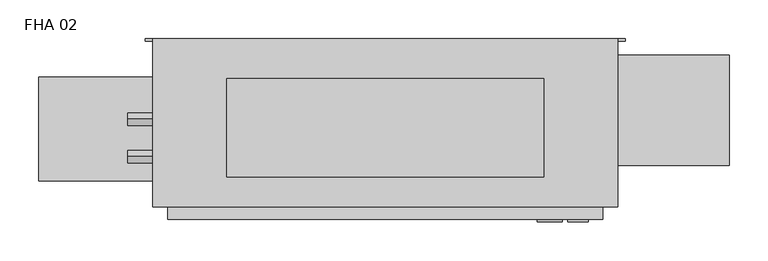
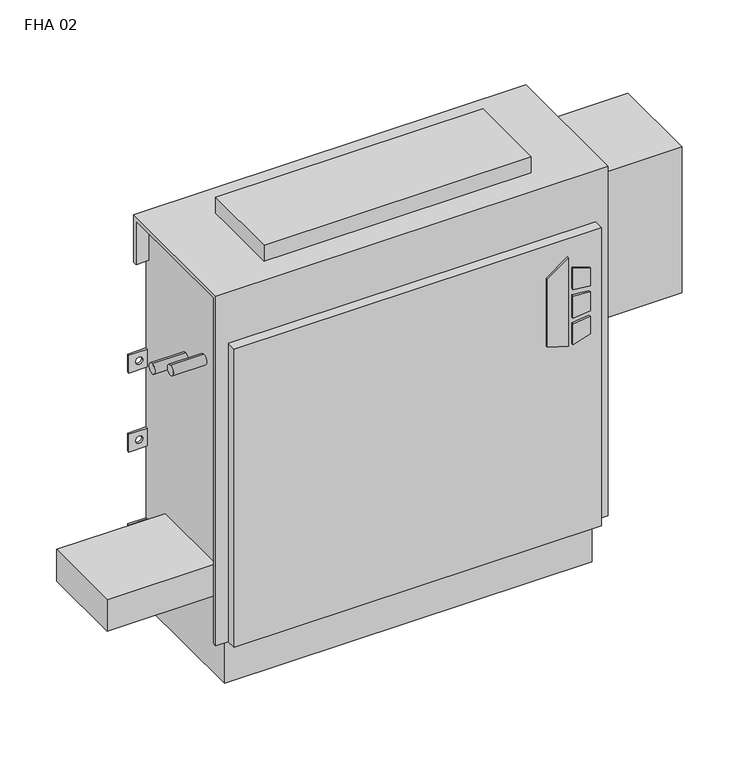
"""IFC4 building model written with IfcOpenShell, lengths in millimetres: proxy geometry, Vertical_Fan_Coil_Unit_-_FHA_-_IEC_-_2-Pipe_TS-FR_LH_2022 : FHA 02."""

import ifcopenshell
import ifcopenshell.guid

model = None  # the IFC model being written
_history = None  # IfcOwnerHistory: only IFC2X3 demands one
_inside = {}  # id of a spatial element -> (the spatial element, [elements in it])
_under = {}  # id of a project, library or spatial element -> (it, [spatial elements below it])
_declared = {}  # id of a project -> (the project, [libraries it declares])
_typed = {}  # id of a type object -> (the type object, [elements of that type])
_made_of = {}  # id of a material, layer set ... -> (it, [elements and type objects made of it])


def new_model(schema):
    """Start an empty IFC model of exactly this schema.

    Asked for "IFC4X3", IfcOpenShell would pick the latest addendum, in which some entities
    have other attributes; the version numbers below select the first issue.
    IFC2X3 requires an IfcOwnerHistory on every rooted entity: one is made here for all.
    """
    global model, _history
    if schema == "IFC4X3":
        model = ifcopenshell.file(schema_version=(4, 3, 0, 0))
    else:
        model = ifcopenshell.file(schema=schema)
    _inside.clear()
    _under.clear()
    _declared.clear()
    _typed.clear()
    _made_of.clear()
    _history = None
    if model.schema == "IFC2X3":
        org = make("IfcOrganization", Name="unknown")
        user = make(
            "IfcPersonAndOrganization",
            ThePerson=make("IfcPerson", FamilyName="unknown"),
            TheOrganization=org,
        )
        app = make(
            "IfcApplication",
            ApplicationDeveloper=org,
            Version="unknown",
            ApplicationFullName="unknown",
            ApplicationIdentifier="unknown",
        )
        _history = make(
            "IfcOwnerHistory",
            OwningUser=user,
            OwningApplication=app,
            ChangeAction="ADDED",
            CreationDate=0,
        )
    return model


def make(cls, **values):
    """One entity of the class cls with the attributes given. An attribute that is None is left unset."""
    return model.create_entity(
        cls, **{name: value for name, value in values.items() if value is not None}
    )


def rooted(cls, **values):
    """An entity with a GlobalId (a new one), such as an element, a storey or a relation."""
    return make(cls, GlobalId=ifcopenshell.guid.new(), OwnerHistory=_history, **values)


def si_unit(unit_type, name, prefix=None):
    """IfcSIUnit, for example si_unit("LENGTHUNIT", "METRE", prefix="MILLI")."""
    return make("IfcSIUnit", UnitType=unit_type, Prefix=prefix, Name=name)


def assignment(units):
    """IfcUnitAssignment: the units of a project."""
    return None if units is None else make("IfcUnitAssignment", Units=units)


def point(xyz):
    """IfcCartesianPoint."""
    return None if xyz is None else make("IfcCartesianPoint", Coordinates=xyz)


def direction(xyz):
    """IfcDirection."""
    return None if xyz is None else make("IfcDirection", DirectionRatios=xyz)


def frame(location, z_axis=None, x_axis=None):
    """IfcAxis2Placement3D, a coordinate frame: its origin and axes. An axis left out is left unset."""
    return make(
        "IfcAxis2Placement3D",
        Location=point(location),
        Axis=direction(z_axis),
        RefDirection=direction(x_axis),
    )


def frame_2d(location, x_axis=None):
    """IfcAxis2Placement2D, a coordinate frame in the plane: its origin and x axis."""
    return make(
        "IfcAxis2Placement2D", Location=point(location), RefDirection=direction(x_axis)
    )


def origin():
    """The frame at (0, 0, 0) with its axes left unset."""
    return frame((0.0, 0.0, 0.0))


def place(relative_to, where):
    """IfcLocalPlacement: puts the frame where relative to a parent placement (None: the world)."""
    return make(
        "IfcLocalPlacement", PlacementRelTo=relative_to, RelativePlacement=where
    )


def context(
    kind, dimensions, precision=None, world=None, true_north=None, identifier=None
):
    """IfcGeometricRepresentationContext, for example the 3D "Model" context."""
    return make(
        "IfcGeometricRepresentationContext",
        ContextIdentifier=identifier,
        ContextType=kind,
        CoordinateSpaceDimension=dimensions,
        Precision=precision,
        WorldCoordinateSystem=world,
        TrueNorth=true_north,
    )


def project(units=None, contexts=None):
    """IfcProject with its units and contexts."""
    return rooted(
        "IfcProject",
        Name="project",
        RepresentationContexts=contexts,
        UnitsInContext=assignment(units),
    )


def spatial(cls, under=None, at=None, **own):
    """A site, building, storey or space (cls), placed at a placement, below another one or the project."""
    s = rooted(cls, ObjectPlacement=at, **own)
    if under is not None:
        _under.setdefault(under.id(), (under, []))[1].append(s)
    return s


def polyline(points):
    """IfcPolyline through the points."""
    return make("IfcPolyline", Points=[point(p) for p in points])


def circle_curve(where, radius):
    """IfcCircle in the frame where."""
    return make("IfcCircle", Position=where, Radius=radius)


def trimmed(basis, trim1, trim2, sense, master):
    """IfcTrimmedCurve: the piece of a basis curve between two trims."""
    return make(
        "IfcTrimmedCurve",
        BasisCurve=basis,
        Trim1=trim1,
        Trim2=trim2,
        SenseAgreement=sense,
        MasterRepresentation=master,
    )


def segment(curve, same_sense, transition):
    """IfcCompositeCurveSegment."""
    return make(
        "IfcCompositeCurveSegment",
        Transition=transition,
        SameSense=same_sense,
        ParentCurve=curve,
    )


def composite_curve(segments, self_intersect=None):
    """IfcCompositeCurve: segments joined end to end."""
    return make("IfcCompositeCurve", Segments=segments, SelfIntersect=self_intersect)


def outline(outer, holes=None, kind="AREA"):
    """IfcArbitraryClosedProfileDef: a profile drawn as a closed curve; with holes, ...WithVoids."""
    if holes is None:
        return make("IfcArbitraryClosedProfileDef", ProfileType=kind, OuterCurve=outer)
    return make(
        "IfcArbitraryProfileDefWithVoids",
        ProfileType=kind,
        OuterCurve=outer,
        InnerCurves=holes,
    )


def extrude(swept, where, along, depth):
    """IfcExtrudedAreaSolid: the profile swept, set in the frame where, extruded along a direction by depth."""
    return make(
        "IfcExtrudedAreaSolid",
        SweptArea=swept,
        Position=where,
        ExtrudedDirection=direction(along),
        Depth=depth,
    )


def shape(context_of_items, identifier, shape_type, items):
    """IfcShapeRepresentation: the items that make up one representation, for example the "Body"."""
    return make(
        "IfcShapeRepresentation",
        ContextOfItems=context_of_items,
        RepresentationIdentifier=identifier,
        RepresentationType=shape_type,
        Items=items,
    )


def source(mapping_origin, context_of_items, identifier, shape_type, items):
    """IfcRepresentationMap: a shape defined once, which mapped items show again and again."""
    return make(
        "IfcRepresentationMap",
        MappingOrigin=mapping_origin,
        MappedRepresentation=shape(context_of_items, identifier, shape_type, items),
    )


def transform(
    local_origin,
    x_axis=None,
    y_axis=None,
    z_axis=None,
    scale=None,
    scale2=None,
    scale3=None,
    uniform=True,
):
    """IfcCartesianTransformationOperator3D, or its non-uniform kind. x_axis, y_axis, z_axis: its Axis1, 2, 3."""
    if uniform:
        return make(
            "IfcCartesianTransformationOperator3D",
            Axis1=direction(x_axis),
            Axis2=direction(y_axis),
            LocalOrigin=point(local_origin),
            Scale=scale,
            Axis3=direction(z_axis),
        )
    return make(
        "IfcCartesianTransformationOperator3DnonUniform",
        Axis1=direction(x_axis),
        Axis2=direction(y_axis),
        LocalOrigin=point(local_origin),
        Scale=scale,
        Axis3=direction(z_axis),
        Scale2=scale2,
        Scale3=scale3,
    )


def mapped(mapping_source, mapping_target):
    """IfcMappedItem: shows the shape of a source again, moved by a transform."""
    return make(
        "IfcMappedItem", MappingSource=mapping_source, MappingTarget=mapping_target
    )


def made_of(thing, what):
    """Note that an element or type object is made of a material, layer set ...; save() writes the relation."""
    if what is not None:
        _made_of.setdefault(what.id(), (what, []))[1].append(thing)
    return thing


def element(
    cls,
    number,
    at=None,
    inside=None,
    cuts=None,
    type_object=None,
    material=None,
    context=None,
    identifier="Body",
    shape_type=None,
    held_by="IfcProductDefinitionShape",
    body=None,
    shapes=None,
    **own,
):
    """One element of the class cls, such as IfcWall. Its Tag is "e" and its number.

    at: its placement. inside: the storey or other place that contains it. cuts: it is an
    opening in that element (IfcRelVoidsElement). A single representation is given by context,
    identifier, shape_type and body (its items); several are given by shapes. held_by: the class
    of the entity that holds the representations. save() writes the other relations.
    """
    e = rooted(cls, Tag="e%d" % number, ObjectPlacement=at, **own)
    if body is not None:
        shapes = [shape(context, identifier, shape_type, body)]
    if shapes is not None:
        e.Representation = make(held_by, Representations=shapes)
    if inside is not None:
        _inside.setdefault(inside.id(), (inside, []))[1].append(e)
    if cuts is not None:
        rooted(
            "IfcRelVoidsElement", RelatingBuildingElement=cuts, RelatedOpeningElement=e
        )
    if type_object is not None:
        _typed.setdefault(type_object.id(), (type_object, []))[1].append(e)
    return made_of(e, material)


def aggregate(whole, parts):
    """IfcRelAggregates: a whole, such as a stair, and the parts it consists of."""
    return rooted("IfcRelAggregates", RelatingObject=whole, RelatedObjects=parts)


def save(model, path):
    """Write the relations noted so far, then the file.

    IfcRelAggregates (storeys below a building ...), IfcRelContainedInSpatialStructure (elements
    in a storey), IfcRelDefinesByType, IfcRelAssociatesMaterial and IfcRelDeclares: one each for
    every whole, place, type object, material and project.
    """
    for whole, parts in _under.values():
        aggregate(whole, parts)
    for where, things in _inside.values():
        rooted(
            "IfcRelContainedInSpatialStructure",
            RelatedElements=things,
            RelatingStructure=where,
        )
    for kind, things in _typed.values():
        rooted("IfcRelDefinesByType", RelatedObjects=things, RelatingType=kind)
    for what, things in _made_of.values():
        rooted("IfcRelAssociatesMaterial", RelatedObjects=things, RelatingMaterial=what)
    for by, libraries in _declared.values():
        rooted("IfcRelDeclares", RelatingContext=by, RelatedDefinitions=libraries)
    model.write(path)


def plane_surface(at):
    """IfcPlane: the flat surface through the origin of the frame at, square to its z axis."""
    return make("IfcPlane", Position=at)


def revolved_surface(curve, axis_point, axis_direction):
    """IfcSurfaceOfRevolution: the curve turned about the line through axis_point along axis_direction."""
    return make(
        "IfcSurfaceOfRevolution",
        SweptCurve=make("IfcArbitraryOpenProfileDef", ProfileType="CURVE", Curve=curve),
        AxisPosition=make("IfcAxis1Placement", Location=point(axis_point), Axis=direction(axis_direction)),
    )


def advanced_brep(points, edges, surfaces, faces):
    """IfcAdvancedBrep: a solid bounded by faces that lie on surfaces and meet in shared edges.

    An edge is (start, end): straight between two places in points (the first is 0);
    or (start, end, curve); or (start, end, curve, False) where it runs against its curve.
    A face is (place in surfaces, loops), or (place, loops, False) where it looks against
    its surface's normal. A loop lists edges by number (the first is 1), with a minus sign
    where the edge is run from its end to its start. The first loop is the outer one.
    """
    corners = [point(p) for p in points]
    vertices = [make("IfcVertexPoint", VertexGeometry=c) for c in corners]
    made = []
    for start, end, *more in edges:
        made.append(
            make(
                "IfcEdgeCurve",
                EdgeStart=vertices[start],
                EdgeEnd=vertices[end],
                EdgeGeometry=more[0] if more else make("IfcPolyline", Points=[corners[start], corners[end]]),
                SameSense=more[1] if len(more) > 1 else True,
            )
        )
    hull = []
    for where, loops, *sense in faces:
        bounds = []
        for j, loop in enumerate(loops):
            ring = [make("IfcOrientedEdge", EdgeElement=made[abs(k) - 1], Orientation=k > 0) for k in loop]
            bounds.append(
                make(
                    "IfcFaceOuterBound" if j == 0 else "IfcFaceBound",
                    Bound=make("IfcEdgeLoop", EdgeList=ring),
                    Orientation=True,
                )
            )
        hull.append(make("IfcAdvancedFace", Bounds=bounds, FaceSurface=surfaces[where], SameSense=sense[0] if sense else True))
    return make("IfcAdvancedBrep", Outer=make("IfcClosedShell", CfsFaces=hull))


def fha_02_d0d8a334(model_context):
    return source(origin(), model_context, "Body", "SolidModel", [
        extrude(outline(polyline([(391.6086829, 347.7368862), (381.6606126, 379.9102728), (523.831537, 379.9102728), (500.8095309, 347.7368862), (391.6086829, 347.7368862)])), frame((0.0, 9.525, 0.0), z_axis=(0.0, 1.0, 0.0), x_axis=(0.0, 0.0, 1.0)), (0.0, 0.0, 1.0), 3.175),
        extrude(outline(polyline([(470.6079683, 386.6686058), (467.4055757, 412.75), (496.6344168, 412.75), (504.6988318, 386.6686058), (470.6079683, 386.6686058)])), frame((0.0, 9.525, 0.0), z_axis=(0.0, 1.0, 0.0), x_axis=(0.0, 0.0, 1.0)), (0.0, 0.0, 1.0), 3.175),
        extrude(outline(polyline([(418.7444414, 412.75), (415.0789404, 386.6686058), (381.6606126, 386.6686058), (390.2948498, 412.75), (418.7444414, 412.75)])), frame((0.0, 9.525, 0.0), z_axis=(0.0, 1.0, 0.0), x_axis=(0.0, 0.0, 1.0)), (0.0, 0.0, 1.0), 3.175),
        extrude(outline(polyline([(458.0596028, 412.75), (460.3414292, 386.6686058), (424.4038806, 386.6686058), (427.1451456, 412.75), (458.0596028, 412.75)])), frame((0.0, 9.525, 0.0), z_axis=(0.0, 1.0, 0.0), x_axis=(0.0, 0.0, 1.0)), (0.0, 0.0, 1.0), 3.175),
        extrude(outline(composite_curve([segment(trimmed(circle_curve(frame_2d((-190.5, 128.5875)), 9.525), [point((-200.025, 128.5875))], [point((-180.975, 128.5875))], False, "CARTESIAN"), True, "CONTINUOUS"), segment(trimmed(circle_curve(frame_2d((-190.5, 128.5875)), 9.525), [point((-180.975, 128.5875))], [point((-200.025, 128.5875))], False, "CARTESIAN"), True, "CONTINUOUS")], self_intersect=False)), frame((0.0, 0.0, 101.6), z_axis=(0.0, 0.0, 1.0), x_axis=(1.0, 0.0, 0.0)), (0.0, 0.0, 1.0), 25.4),
        extrude(outline(polyline([(-292.1, 61.9125), (-292.1, 195.2625), (-127.0, 195.2625), (-127.0, 61.9125), (-292.1, 61.9125)])), frame((0.0, 0.0, 127.0), z_axis=(0.0, 0.0, 1.0), x_axis=(1.0, 0.0, 0.0)), (0.0, 0.0, 1.0), 50.8),
        extrude(outline(polyline([(355.6, 193.675), (355.6, 66.675), (-50.8, 66.675), (-50.8, 193.675), (355.6, 193.675)])), frame((0.0, 0.0, 635.0), z_axis=(0.0, 0.0, 1.0), x_axis=(1.0, 0.0, 0.0)), (0.0, 0.0, 1.0), 25.4),
        extrude(outline(composite_curve([segment(trimmed(circle_curve(frame_2d((93.1926, 488.0102)), 7.9375), [point((93.1926, 495.9477))], [point((93.1926, 480.0727))], False, "CARTESIAN"), True, "CONTINUOUS"), segment(trimmed(circle_curve(frame_2d((93.1926, 488.0102)), 7.9375), [point((93.1926, 480.0727))], [point((93.1926, 495.9477))], False, "CARTESIAN"), True, "CONTINUOUS")], self_intersect=False)), frame((-177.8, 0.0, 0.0), z_axis=(1.0, 0.0, 0.0), x_axis=(0.0, 1.0, 0.0)), (0.0, 0.0, 1.0), 50.8),
        extrude(outline(composite_curve([segment(trimmed(circle_curve(frame_2d((141.3002, 461.3402)), 7.9375), [point((141.3002, 469.2777))], [point((141.3002, 453.4027))], False, "CARTESIAN"), True, "CONTINUOUS"), segment(trimmed(circle_curve(frame_2d((141.3002, 461.3402)), 7.9375), [point((141.3002, 453.4027))], [point((141.3002, 469.2777))], False, "CARTESIAN"), True, "CONTINUOUS")], self_intersect=False)), frame((-177.8, 0.0, 0.0), z_axis=(1.0, 0.0, 0.0), x_axis=(0.0, 1.0, 0.0)), (0.0, 0.0, 1.0), 50.8),
        extrude(outline(polyline([(593.725, 223.266), (593.725, 81.534), (431.8, 81.534), (431.8, 223.266), (593.725, 223.266)])), frame((0.0, 0.0, 349.25), z_axis=(0.0, 0.0, 1.0), x_axis=(1.0, 0.0, 0.0)), (0.0, 0.0, 1.0), 234.95),
        advanced_brep(
        [(450.85, 244.475, 635.0), (-146.05, 244.475, 635.0), (-146.05, 28.575, 635.0), (450.85, 28.575, 635.0), (-127.0, 244.475, 0.0), (431.8, 244.475, 0.0), (431.8, 38.1, 0.0), (-127.0, 38.1, 0.0), (450.85, 244.475, 558.8), (431.8, 244.475, 558.8), (431.8, 244.475, 414.3375), (460.375, 244.475, 414.3375), (460.375, 244.475, 385.7625), (431.8, 244.475, 385.7625), (431.8, 244.475, 287.3375), (460.375, 244.475, 287.3375), (460.375, 244.475, 258.7625), (431.8, 244.475, 258.7625), (431.8, 244.475, 141.2875), (460.375, 244.475, 141.2875), (460.375, 244.475, 112.7125), (431.8, 244.475, 112.7125), (-127.0, 244.475, 112.7125), (-155.575, 244.475, 112.7125), (-155.575, 244.475, 141.2875), (-127.0, 244.475, 141.2875), (-127.0, 244.475, 258.7625), (-155.575, 244.475, 258.7625), (-155.575, 244.475, 287.3375), (-127.0, 244.475, 287.3375), (-127.0, 244.475, 385.7625), (-155.575, 244.475, 385.7625), (-155.575, 244.475, 414.3375), (-127.0, 244.475, 414.3375), (-127.0, 244.475, 558.8), (-146.05, 244.475, 558.8), (450.0626, 244.475, 127.0), (438.9374, 244.475, 127.0), (-134.1374, 244.475, 127.0), (-145.2626, 244.475, 127.0), (450.0626, 244.475, 273.05), (438.9374, 244.475, 273.05), (-134.1374, 244.475, 273.05), (-145.2626, 244.475, 273.05), (450.0626, 244.475, 400.05), (438.9374, 244.475, 400.05), (-134.1374, 244.475, 400.05), (-145.2626, 244.475, 400.05), (-146.05, 238.125, 558.8), (-146.05, 238.125, 628.65), (-146.05, 34.925, 628.65), (-146.05, 34.925, 73.025), (-146.05, 28.575, 73.025), (431.8, 12.7, 552.45), (-127.0, 12.7, 552.45), (-127.0, 12.7, 73.025), (431.8, 12.7, 73.025), (450.85, 28.575, 73.025), (450.85, 34.925, 73.025), (450.85, 34.925, 628.65), (450.85, 238.125, 628.65), (450.85, 238.125, 558.8), (-127.0, 28.575, 73.025), (-127.0, 28.575, 552.45), (431.8, 28.575, 552.45), (431.8, 28.575, 73.025), (-127.0, 34.925, 73.025), (-127.0, 38.1, 73.025), (431.8, 38.1, 73.025), (431.8, 34.925, 73.025), (431.8, 241.3, 112.7125), (431.8, 241.3, 141.2875), (431.8, 241.3, 258.7625), (431.8, 241.3, 287.3375), (431.8, 241.3, 385.7625), (431.8, 241.3, 414.3375), (431.8, 238.125, 558.8), (431.8, 238.125, 628.65), (431.8, 34.925, 628.65), (-127.0, 34.925, 628.65), (-127.0, 238.125, 628.65), (-127.0, 238.125, 558.8), (-127.0, 241.3, 414.3375), (-127.0, 241.3, 385.7625), (-127.0, 241.3, 287.3375), (-127.0, 241.3, 258.7625), (-127.0, 241.3, 141.2875), (-127.0, 241.3, 112.7125), (460.375, 241.3, 112.7125), (460.375, 241.3, 141.2875), (438.9374, 241.3, 127.0), (450.0626, 241.3, 127.0), (460.375, 241.3, 258.7625), (460.375, 241.3, 287.3375), (438.9374, 241.3, 273.05), (450.0626, 241.3, 273.05), (460.375, 241.3, 385.7625), (460.375, 241.3, 414.3375), (438.9374, 241.3, 400.05), (450.0626, 241.3, 400.05), (-155.575, 241.3, 141.2875), (-155.575, 241.3, 112.7125), (-145.2626, 241.3, 127.0), (-134.1374, 241.3, 127.0), (-155.575, 241.3, 287.3375), (-155.575, 241.3, 258.7625), (-145.2626, 241.3, 273.05), (-134.1374, 241.3, 273.05), (-155.575, 241.3, 414.3375), (-155.575, 241.3, 385.7625), (-145.2626, 241.3, 400.05), (-134.1374, 241.3, 400.05)],
        [
            (0, 1),
            (1, 2),
            (2, 3),
            (3, 0),
            (4, 5),
            (5, 6),
            (6, 7),
            (7, 4),
            (0, 8),
            (8, 9),
            (9, 10),
            (10, 11),
            (11, 12),
            (12, 13),
            (13, 14),
            (14, 15),
            (15, 16),
            (16, 17),
            (17, 18),
            (18, 19),
            (19, 20),
            (20, 21),
            (21, 5),
            (4, 22),
            (22, 23),
            (23, 24),
            (24, 25),
            (25, 26),
            (26, 27),
            (27, 28),
            (28, 29),
            (29, 30),
            (30, 31),
            (31, 32),
            (32, 33),
            (33, 34),
            (34, 35),
            (35, 1),
            (36, 37, circle_curve(frame((444.5, 244.475, 127.0), z_axis=(0.0, -1.0, 0.0), x_axis=(-1.0, 0.0, 0.0)), 5.5626)),
            (37, 36, circle_curve(frame((444.5, 244.475, 127.0), z_axis=(0.0, -1.0, 0.0), x_axis=(-1.0, 0.0, 0.0)), 5.5626)),
            (38, 39, circle_curve(frame((-139.7, 244.475, 127.0), z_axis=(0.0, -1.0, 0.0), x_axis=(-1.0, 0.0, 0.0)), 5.5626)),
            (39, 38, circle_curve(frame((-139.7, 244.475, 127.0), z_axis=(0.0, -1.0, 0.0), x_axis=(-1.0, 0.0, 0.0)), 5.5626)),
            (40, 41, circle_curve(frame((444.5, 244.475, 273.05), z_axis=(0.0, -1.0, 0.0), x_axis=(-1.0, 0.0, 0.0)), 5.5626)),
            (41, 40, circle_curve(frame((444.5, 244.475, 273.05), z_axis=(0.0, -1.0, 0.0), x_axis=(-1.0, 0.0, 0.0)), 5.5626)),
            (42, 43, circle_curve(frame((-139.7, 244.475, 273.05), z_axis=(0.0, -1.0, 0.0), x_axis=(-1.0, 0.0, 0.0)), 5.5626)),
            (43, 42, circle_curve(frame((-139.7, 244.475, 273.05), z_axis=(0.0, -1.0, 0.0), x_axis=(-1.0, 0.0, 0.0)), 5.5626)),
            (44, 45, circle_curve(frame((444.5, 244.475, 400.05), z_axis=(0.0, -1.0, 0.0), x_axis=(-1.0, 0.0, 0.0)), 5.5626)),
            (45, 44, circle_curve(frame((444.5, 244.475, 400.05), z_axis=(0.0, -1.0, 0.0), x_axis=(-1.0, 0.0, 0.0)), 5.5626)),
            (46, 47, circle_curve(frame((-139.7, 244.475, 400.05), z_axis=(0.0, -1.0, 0.0), x_axis=(-1.0, 0.0, 0.0)), 5.5626)),
            (47, 46, circle_curve(frame((-139.7, 244.475, 400.05), z_axis=(0.0, -1.0, 0.0), x_axis=(-1.0, 0.0, 0.0)), 5.5626)),
            (35, 48),
            (48, 49),
            (49, 50),
            (50, 51),
            (51, 52),
            (52, 2),
            (53, 54),
            (54, 55),
            (55, 56),
            (56, 53),
            (3, 57),
            (57, 58),
            (58, 59),
            (59, 60),
            (60, 61),
            (61, 8),
            (52, 62),
            (62, 63),
            (63, 64),
            (64, 65),
            (65, 57),
            (53, 64),
            (63, 54),
            (55, 62),
            (51, 66),
            (66, 67),
            (67, 68),
            (68, 69),
            (69, 58),
            (65, 56),
            (6, 68),
            (67, 7),
            (21, 70),
            (70, 71),
            (71, 18),
            (17, 72),
            (72, 73),
            (73, 14),
            (13, 74),
            (74, 75),
            (75, 10),
            (9, 76),
            (76, 77),
            (77, 78),
            (78, 69),
            (66, 79),
            (79, 80),
            (80, 81),
            (81, 34),
            (33, 82),
            (82, 83),
            (83, 30),
            (29, 84),
            (84, 85),
            (85, 26),
            (25, 86),
            (86, 87),
            (87, 22),
            (76, 61),
            (60, 77),
            (78, 59),
            (50, 79),
            (81, 48),
            (80, 49),
            (70, 88),
            (88, 89),
            (89, 71),
            (90, 91, circle_curve(frame((444.5, 241.3, 127.0), z_axis=(0.0, 1.0, 0.0), x_axis=(-1.0, 0.0, 0.0)), 5.5626)),
            (91, 90, circle_curve(frame((444.5, 241.3, 127.0), z_axis=(0.0, 1.0, 0.0), x_axis=(-1.0, 0.0, 0.0)), 5.5626)),
            (92, 93),
            (93, 73),
            (72, 92),
            (94, 95, circle_curve(frame((444.5, 241.3, 273.05), z_axis=(0.0, 1.0, 0.0), x_axis=(-1.0, 0.0, 0.0)), 5.5626)),
            (95, 94, circle_curve(frame((444.5, 241.3, 273.05), z_axis=(0.0, 1.0, 0.0), x_axis=(-1.0, 0.0, 0.0)), 5.5626)),
            (96, 97),
            (97, 75),
            (74, 96),
            (98, 99, circle_curve(frame((444.5, 241.3, 400.05), z_axis=(0.0, 1.0, 0.0), x_axis=(-1.0, 0.0, 0.0)), 5.5626)),
            (99, 98, circle_curve(frame((444.5, 241.3, 400.05), z_axis=(0.0, 1.0, 0.0), x_axis=(-1.0, 0.0, 0.0)), 5.5626)),
            (100, 101),
            (101, 87),
            (86, 100),
            (102, 103, circle_curve(frame((-139.7, 241.3, 127.0), z_axis=(0.0, 1.0, 0.0), x_axis=(-1.0, 0.0, 0.0)), 5.5626)),
            (103, 102, circle_curve(frame((-139.7, 241.3, 127.0), z_axis=(0.0, 1.0, 0.0), x_axis=(-1.0, 0.0, 0.0)), 5.5626)),
            (84, 104),
            (104, 105),
            (105, 85),
            (106, 107, circle_curve(frame((-139.7, 241.3, 273.05), z_axis=(0.0, 1.0, 0.0), x_axis=(-1.0, 0.0, 0.0)), 5.5626)),
            (107, 106, circle_curve(frame((-139.7, 241.3, 273.05), z_axis=(0.0, 1.0, 0.0), x_axis=(-1.0, 0.0, 0.0)), 5.5626)),
            (108, 109),
            (109, 83),
            (82, 108),
            (110, 111, circle_curve(frame((-139.7, 241.3, 400.05), z_axis=(0.0, 1.0, 0.0), x_axis=(-1.0, 0.0, 0.0)), 5.5626)),
            (111, 110, circle_curve(frame((-139.7, 241.3, 400.05), z_axis=(0.0, 1.0, 0.0), x_axis=(-1.0, 0.0, 0.0)), 5.5626)),
            (89, 19),
            (88, 20),
            (16, 92),
            (93, 15),
            (12, 96),
            (97, 11),
            (24, 100),
            (101, 23),
            (105, 27),
            (104, 28),
            (32, 108),
            (109, 31),
            (90, 37),
            (36, 91),
            (102, 39),
            (38, 103),
            (94, 41),
            (40, 95),
            (106, 43),
            (42, 107),
            (98, 45),
            (44, 99),
            (110, 47),
            (46, 111),
        ],
        [
            plane_surface(frame((-146.05, 244.475, 635.0), z_axis=(0.0, 0.0, 1.0), x_axis=(-1.0, 0.0, 0.0))),
            plane_surface(frame((-146.05, 244.475, 0.0), z_axis=(0.0, 0.0, -1.0), x_axis=(1.0, 0.0, 0.0))),
            plane_surface(frame((450.85, 244.475, 635.0), z_axis=(0.0, 1.0, 0.0), x_axis=(0.0, 0.0, -1.0))),
            plane_surface(frame((-146.05, 244.475, 635.0), z_axis=(-1.0, 0.0, 0.0), x_axis=(0.0, 0.0, -1.0))),
            plane_surface(frame((-146.05, 12.7, 635.0), z_axis=(0.0, -1.0, 0.0), x_axis=(0.0, 0.0, -1.0))),
            plane_surface(frame((450.85, 12.7, 635.0), z_axis=(1.0, 0.0, 0.0), x_axis=(0.0, 0.0, -1.0))),
            plane_surface(frame((-146.05, 28.575, 635.0), z_axis=(0.0, -1.0, 0.0), x_axis=(1.0, 0.0, 0.0))),
            plane_surface(frame((-146.05, 28.575, 552.45), z_axis=(0.0, 0.0, 1.0), x_axis=(1.0, 0.0, 0.0))),
            plane_surface(frame((-146.05, 12.7, 73.025), z_axis=(0.0, 0.0, -1.0), x_axis=(1.0, 0.0, 0.0))),
            plane_surface(frame((-146.05, 38.1, 73.025), z_axis=(0.0, -1.0, 0.0), x_axis=(1.0, 0.0, 0.0))),
            plane_surface(frame((431.8, 28.575, 73.025), z_axis=(1.0, 0.0, 0.0), x_axis=(0.0, -1.0, 0.0))),
            plane_surface(frame((-127.0, 28.575, 552.45), z_axis=(-1.0, 0.0, 0.0), x_axis=(0.0, -1.0, 0.0))),
            plane_surface(frame((431.8, 244.475, 0.0), z_axis=(1.0, 0.0, 0.0), x_axis=(0.0, -1.0, 0.0))),
            plane_surface(frame((-127.0, 244.475, 73.025), z_axis=(-1.0, 0.0, 0.0), x_axis=(0.0, -1.0, 0.0))),
            plane_surface(frame((431.8, 238.125, 628.65), z_axis=(0.0, -1.0, 0.0), x_axis=(1.0, 0.0, 0.0))),
            plane_surface(frame((431.8, 238.125, 558.8), z_axis=(0.0, 0.0, -1.0), x_axis=(1.0, 0.0, 0.0))),
            plane_surface(frame((431.8, 34.925, 73.025), z_axis=(0.0, 1.0, 0.0), x_axis=(1.0, 0.0, 0.0))),
            plane_surface(frame((431.8, 34.925, 628.65), z_axis=(0.0, 0.0, -1.0), x_axis=(1.0, 0.0, 0.0))),
            plane_surface(frame((-127.0, 34.925, 628.65), z_axis=(0.0, 1.0, 0.0), x_axis=(-1.0, 0.0, 0.0))),
            plane_surface(frame((-127.0, 244.475, 558.8), z_axis=(0.0, 0.0, -1.0), x_axis=(-1.0, 0.0, 0.0))),
            plane_surface(frame((-127.0, 238.125, 558.8), z_axis=(0.0, -1.0, 0.0), x_axis=(-1.0, 0.0, 0.0))),
            plane_surface(frame((-127.0, 238.125, 628.65), z_axis=(0.0, 0.0, -1.0), x_axis=(-1.0, 0.0, 0.0))),
            plane_surface(frame((460.375, 241.3, 141.2875), z_axis=(0.0, -1.0, 0.0), x_axis=(-1.0, 0.0, 0.0))),
            plane_surface(frame((431.8, 244.475, 141.2875), z_axis=(0.0, 0.0, 1.0), x_axis=(0.0, -1.0, 0.0))),
            plane_surface(frame((460.375, 244.475, 141.2875), z_axis=(1.0, 0.0, 0.0), x_axis=(0.0, -1.0, 0.0))),
            plane_surface(frame((460.375, 244.475, 112.7125), z_axis=(0.0, 0.0, -1.0), x_axis=(0.0, -1.0, 0.0))),
            plane_surface(frame((460.375, 244.475, 258.7625), z_axis=(0.0, 0.0, -1.0), x_axis=(0.0, -1.0, 0.0))),
            plane_surface(frame((431.8, 244.475, 287.3375), z_axis=(0.0, 0.0, 1.0), x_axis=(0.0, -1.0, 0.0))),
            plane_surface(frame((460.375, 244.475, 287.3375), z_axis=(1.0, 0.0, 0.0), x_axis=(0.0, -1.0, 0.0))),
            plane_surface(frame((460.375, 244.475, 385.7625), z_axis=(0.0, 0.0, -1.0), x_axis=(0.0, -1.0, 0.0))),
            plane_surface(frame((431.8, 244.475, 414.3375), z_axis=(0.0, 0.0, 1.0), x_axis=(0.0, -1.0, 0.0))),
            plane_surface(frame((460.375, 244.475, 414.3375), z_axis=(1.0, 0.0, 0.0), x_axis=(0.0, -1.0, 0.0))),
            plane_surface(frame((-155.575, 244.475, 141.2875), z_axis=(0.0, 0.0, 1.0), x_axis=(0.0, -1.0, 0.0))),
            plane_surface(frame((-127.0, 244.475, 112.7125), z_axis=(0.0, 0.0, -1.0), x_axis=(0.0, -1.0, 0.0))),
            plane_surface(frame((-155.575, 244.475, 112.7125), z_axis=(-1.0, 0.0, 0.0), x_axis=(0.0, -1.0, 0.0))),
            plane_surface(frame((-127.0, 244.475, 258.7625), z_axis=(0.0, 0.0, -1.0), x_axis=(0.0, -1.0, 0.0))),
            plane_surface(frame((-155.575, 244.475, 258.7625), z_axis=(-1.0, 0.0, 0.0), x_axis=(0.0, -1.0, 0.0))),
            plane_surface(frame((-155.575, 244.475, 287.3375), z_axis=(0.0, 0.0, 1.0), x_axis=(0.0, -1.0, 0.0))),
            plane_surface(frame((-155.575, 244.475, 414.3375), z_axis=(0.0, 0.0, 1.0), x_axis=(0.0, -1.0, 0.0))),
            plane_surface(frame((-127.0, 244.475, 385.7625), z_axis=(0.0, 0.0, -1.0), x_axis=(0.0, -1.0, 0.0))),
            plane_surface(frame((-155.575, 244.475, 385.7625), z_axis=(-1.0, 0.0, 0.0), x_axis=(0.0, -1.0, 0.0))),
            revolved_surface(polyline([(438.9374, 241.3, 127.0), (438.9374, 244.475, 127.0)]), (444.5, 244.475, 127.0), (0.0, -1.0, 0.0)),
            revolved_surface(polyline([(-145.2626, 241.3, 127.0), (-145.2626, 244.475, 127.0)]), (-139.7, 244.475, 127.0), (0.0, -1.0, 0.0)),
            revolved_surface(polyline([(438.9374, 241.3, 273.05), (438.9374, 244.475, 273.05)]), (444.5, 244.475, 273.05), (0.0, -1.0, 0.0)),
            revolved_surface(polyline([(-145.2626, 241.3, 273.05), (-145.2626, 244.475, 273.05)]), (-139.7, 244.475, 273.05), (0.0, -1.0, 0.0)),
            revolved_surface(polyline([(438.9374, 241.3, 400.05), (438.9374, 244.475, 400.05)]), (444.5, 244.475, 400.05), (0.0, -1.0, 0.0)),
            revolved_surface(polyline([(-145.2626, 241.3, 400.05), (-145.2626, 244.475, 400.05)]), (-139.7, 244.475, 400.05), (0.0, -1.0, 0.0)),
        ],
        [
            (0, [[1, 2, 3, 4]]),
            (1, [[5, 6, 7, 8]]),
            (2, [[-1, 9, 10, 11, 12, 13, 14, 15, 16, 17, 18, 19, 20, 21, 22, 23, -5, 24, 25, 26, 27, 28, 29, 30, 31, 32, 33, 34, 35, 36, 37, 38], [39, 40], [41, 42], [43, 44], [45, 46], [47, 48], [49, 50]]),
            (3, [[-2, -38, 51, 52, 53, 54, 55, 56]]),
            (4, [[57, 58, 59, 60]]),
            (5, [[-4, 61, 62, 63, 64, 65, 66, -9]]),
            (6, [[-3, -56, 67, 68, 69, 70, 71, -61]]),
            (7, [[-57, 72, -69, 73]]),
            (8, [[-59, 74, -67, -55, 75, 76, 77, 78, 79, -62, -71, 80]]),
            (9, [[-7, 81, -77, 82]]),
            (10, [[-70, -72, -60, -80]]),
            (11, [[-68, -74, -58, -73]]),
            (12, [[-6, -23, 83, 84, 85, -19, 86, 87, 88, -15, 89, 90, 91, -11, 92, 93, 94, 95, -78, -81]]),
            (13, [[-8, -82, -76, 96, 97, 98, 99, -36, 100, 101, 102, -32, 103, 104, 105, -28, 106, 107, 108, -24]]),
            (14, [[-93, 109, -65, 110]]),
            (15, [[-92, -10, -66, -109]]),
            (16, [[-95, 111, -63, -79]]),
            (17, [[-94, -110, -64, -111]]),
            (18, [[-96, -75, -54, 112]]),
            (19, [[-99, 113, -51, -37]]),
            (20, [[-98, 114, -52, -113]]),
            (21, [[-97, -112, -53, -114]]),
            (22, [[115, 116, 117, -84], [118, 119]]),
            (22, [[120, 121, -87, 122], [123, 124]]),
            (22, [[125, 126, -90, 127], [128, 129]]),
            (22, [[130, 131, -107, 132], [133, 134]]),
            (22, [[135, 136, 137, -104], [138, 139]]),
            (22, [[140, 141, -101, 142], [143, 144]]),
            (23, [[-117, 145, -20, -85]]),
            (24, [[-116, 146, -21, -145]]),
            (25, [[-115, -83, -22, -146]]),
            (26, [[-122, -86, -18, 147]]),
            (27, [[-121, 148, -16, -88]]),
            (28, [[-120, -147, -17, -148]]),
            (29, [[-127, -89, -14, 149]]),
            (30, [[-126, 150, -12, -91]]),
            (31, [[-125, -149, -13, -150]]),
            (32, [[-132, -106, -27, 151]]),
            (33, [[-131, 152, -25, -108]]),
            (34, [[-130, -151, -26, -152]]),
            (35, [[-137, 153, -29, -105]]),
            (36, [[-136, 154, -30, -153]]),
            (37, [[-135, -103, -31, -154]]),
            (38, [[-142, -100, -35, 155]]),
            (39, [[-141, 156, -33, -102]]),
            (40, [[-140, -155, -34, -156]]),
            (41, [[157, -39, 158, -118]]),
            (41, [[-157, -119, -158, -40]]),
            (42, [[159, -41, 160, -133]]),
            (42, [[-159, -134, -160, -42]]),
            (43, [[161, -43, 162, -123]]),
            (43, [[-161, -124, -162, -44]]),
            (44, [[163, -45, 164, -138]]),
            (44, [[-163, -139, -164, -46]]),
            (45, [[165, -47, 166, -128]]),
            (45, [[-165, -129, -166, -48]]),
            (46, [[167, -49, 168, -143]]),
            (46, [[-167, -144, -168, -50]]),
        ],
    ),
    ])


if __name__ == "__main__":
    model = new_model("IFC4")
    model_context = context("Model", 3, world=origin())
    ifc_project = project(units=[si_unit("LENGTHUNIT", "METRE", prefix="MILLI")], contexts=[model_context])
    site = spatial("IfcSite", under=ifc_project)
    building = spatial("IfcBuilding", under=site)
    placement = place(None, origin())
    fha_02_shape = fha_02_d0d8a334(model_context)
    element("IfcBuildingElementProxy", 1, Name="Vertical_Fan_Coil_Unit_-_FHA_-_IEC_-_2-Pipe_TS-FR_LH_2022 : FHA 02", ObjectType="Vertical_Fan_Coil_Unit_-_FHA_-_IEC_-_2-Pipe_TS-FR_LH_2022 : FHA 02", at=placement, inside=building, context=model_context, shape_type="MappedRepresentation", body=[
        mapped(fha_02_shape, transform((0.0, 0.0, 0.0), x_axis=(1.0, 0.0, 0.0), y_axis=(0.0, 1.0, 0.0), z_axis=(0.0, 0.0, 1.0))),
    ])
    save(model, "model.ifc")
